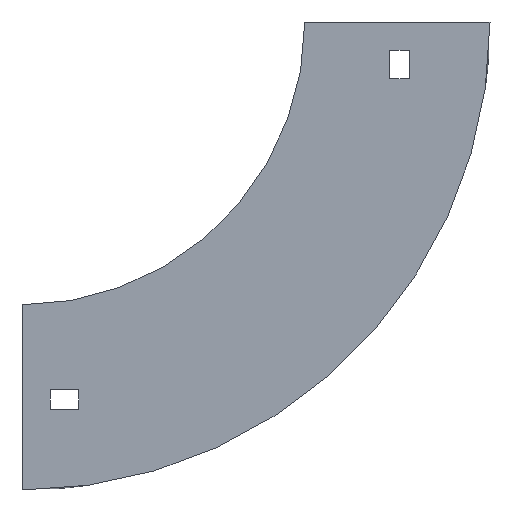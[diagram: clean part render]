
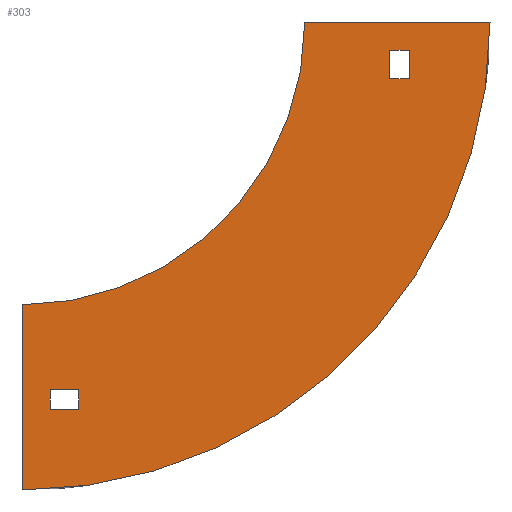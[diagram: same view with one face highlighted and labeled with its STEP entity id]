
A CAD part, left-side view. The second image highlights one B-rep face of the part: STEP entity #303.
In plain terms, the highlighted planar face has unit normal (-1, 0, 0).
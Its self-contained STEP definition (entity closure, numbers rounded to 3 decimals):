
#11 = ORIENTED_EDGE ( 'NONE', *, *, #822, .T. ) ;
#19 = EDGE_CURVE ( 'NONE', #940, #1120, #291, .T. ) ;
#23 = CARTESIAN_POINT ( 'NONE',  ( -32.75, 0., 0. ) ) ;
#34 = EDGE_CURVE ( 'NONE', #1111, #415, #609, .T. ) ;
#59 = DIRECTION ( 'NONE',  ( 0., 0., 1. ) ) ;
#67 = ORIENTED_EDGE ( 'NONE', *, *, #447, .T. ) ;
#77 = VECTOR ( 'NONE', #795, 1000. ) ;
#78 = CARTESIAN_POINT ( 'NONE',  ( -32.75, 80., -137. ) ) ;
#83 = LINE ( 'NONE', #782, #897 ) ;
#84 = CARTESIAN_POINT ( 'NONE',  ( -32.75, 100., 0. ) ) ;
#120 = ORIENTED_EDGE ( 'NONE', *, *, #238, .F. ) ;
#124 = LINE ( 'NONE', #202, #491 ) ;
#133 = CARTESIAN_POINT ( 'NONE',  ( -32.75, 100., -165.5 ) ) ;
#134 = CARTESIAN_POINT ( 'NONE',  ( -32.75, 100., 0. ) ) ;
#152 = CARTESIAN_POINT ( 'NONE',  ( -32.75, -30., -20. ) ) ;
#164 = VERTEX_POINT ( 'NONE', #1003 ) ;
#165 = ORIENTED_EDGE ( 'NONE', *, *, #19, .F. ) ;
#183 = FACE_BOUND ( 'NONE', #619, .T. ) ;
#188 = DIRECTION ( 'NONE',  ( 0., -1., 0. ) ) ;
#190 = DIRECTION ( 'NONE',  ( 0., 0., 1. ) ) ;
#202 = CARTESIAN_POINT ( 'NONE',  ( -32.75, -30., -10. ) ) ;
#217 = CARTESIAN_POINT ( 'NONE',  ( -32.75, 90., -137. ) ) ;
#225 = ORIENTED_EDGE ( 'NONE', *, *, #34, .F. ) ;
#238 = EDGE_CURVE ( 'NONE', #164, #889, #710, .T. ) ;
#248 = CARTESIAN_POINT ( 'NONE',  ( -32.75, 100., -100. ) ) ;
#272 = VECTOR ( 'NONE', #1023, 1000. ) ;
#275 = CARTESIAN_POINT ( 'NONE',  ( -32.75, -37., -20. ) ) ;
#282 = DIRECTION ( 'NONE',  ( 0., 0., -1. ) ) ;
#284 = CARTESIAN_POINT ( 'NONE',  ( -32.75, 90., -130. ) ) ;
#291 = CIRCLE ( 'NONE', #930, 100. ) ;
#303 = ADVANCED_FACE ( 'NONE', ( #796, #534, #183 ), #1079, .F. ) ;
#311 = VECTOR ( 'NONE', #188, 1000. ) ;
#323 = EDGE_CURVE ( 'NONE', #1000, #428, #354, .T. ) ;
#340 = EDGE_LOOP ( 'NONE', ( #165, #792, #120, #773 ) ) ;
#354 = LINE ( 'NONE', #625, #397 ) ;
#355 = ORIENTED_EDGE ( 'NONE', *, *, #909, .F. ) ;
#366 = VECTOR ( 'NONE', #504, 1000. ) ;
#376 = VERTEX_POINT ( 'NONE', #275 ) ;
#380 = VERTEX_POINT ( 'NONE', #610 ) ;
#397 = VECTOR ( 'NONE', #190, 1000. ) ;
#402 = ORIENTED_EDGE ( 'NONE', *, *, #323, .F. ) ;
#415 = VERTEX_POINT ( 'NONE', #217 ) ;
#424 = DIRECTION ( 'NONE',  ( 0., -1., 0. ) ) ;
#428 = VERTEX_POINT ( 'NONE', #750 ) ;
#447 = EDGE_CURVE ( 'NONE', #380, #984, #124, .T. ) ;
#459 = CARTESIAN_POINT ( 'NONE',  ( -32.75, 90., -130. ) ) ;
#471 = AXIS2_PLACEMENT_3D ( 'NONE', #786, #791, #282 ) ;
#491 = VECTOR ( 'NONE', #568, 1000. ) ;
#492 = DIRECTION ( 'NONE',  ( 0., 0., -1. ) ) ;
#497 = LINE ( 'NONE', #585, #1029 ) ;
#498 = ORIENTED_EDGE ( 'NONE', *, *, #606, .F. ) ;
#504 = DIRECTION ( 'NONE',  ( 0., 1., 0. ) ) ;
#534 = FACE_BOUND ( 'NONE', #668, .T. ) ;
#538 = EDGE_CURVE ( 'NONE', #889, #940, #670, .T. ) ;
#554 = DIRECTION ( 'NONE',  ( 1., 0., 0. ) ) ;
#564 = VECTOR ( 'NONE', #59, 1000. ) ;
#568 = DIRECTION ( 'NONE',  ( 0., 0., 1. ) ) ;
#582 = LINE ( 'NONE', #758, #861 ) ;
#585 = CARTESIAN_POINT ( 'NONE',  ( -32.75, 90., -137. ) ) ;
#606 = EDGE_CURVE ( 'NONE', #415, #1000, #497, .T. ) ;
#609 = LINE ( 'NONE', #459, #77 ) ;
#610 = CARTESIAN_POINT ( 'NONE',  ( -32.75, -30., -20. ) ) ;
#619 = EDGE_LOOP ( 'NONE', ( #225, #355, #402, #498 ) ) ;
#625 = CARTESIAN_POINT ( 'NONE',  ( -32.75, 80., -130. ) ) ;
#629 = DIRECTION ( 'NONE',  ( -1., 0., 0. ) ) ;
#668 = EDGE_LOOP ( 'NONE', ( #67, #840, #11, #871 ) ) ;
#670 = LINE ( 'NONE', #856, #564 ) ;
#684 = EDGE_CURVE ( 'NONE', #1120, #164, #83, .T. ) ;
#709 = DIRECTION ( 'NONE',  ( 0., 0., -1. ) ) ;
#710 = CIRCLE ( 'NONE', #952, 165.5 ) ;
#740 = EDGE_CURVE ( 'NONE', #984, #829, #794, .T. ) ;
#750 = CARTESIAN_POINT ( 'NONE',  ( -32.75, 80., -130. ) ) ;
#758 = CARTESIAN_POINT ( 'NONE',  ( -32.75, 90., -130. ) ) ;
#773 = ORIENTED_EDGE ( 'NONE', *, *, #684, .F. ) ;
#779 = CARTESIAN_POINT ( 'NONE',  ( -32.75, -30., -10. ) ) ;
#782 = CARTESIAN_POINT ( 'NONE',  ( -32.75, -65.5, 0. ) ) ;
#786 = CARTESIAN_POINT ( 'NONE',  ( -32.75, 100., 0. ) ) ;
#791 = DIRECTION ( 'NONE',  ( 1., 0., 0. ) ) ;
#792 = ORIENTED_EDGE ( 'NONE', *, *, #538, .F. ) ;
#794 = LINE ( 'NONE', #892, #311 ) ;
#795 = DIRECTION ( 'NONE',  ( 0., 0., -1. ) ) ;
#796 = FACE_OUTER_BOUND ( 'NONE', #340, .T. ) ;
#822 = EDGE_CURVE ( 'NONE', #829, #376, #1106, .T. ) ;
#829 = VERTEX_POINT ( 'NONE', #849 ) ;
#840 = ORIENTED_EDGE ( 'NONE', *, *, #740, .T. ) ;
#849 = CARTESIAN_POINT ( 'NONE',  ( -32.75, -37., -10. ) ) ;
#856 = CARTESIAN_POINT ( 'NONE',  ( -32.75, 100., -100. ) ) ;
#861 = VECTOR ( 'NONE', #1030, 1000. ) ;
#871 = ORIENTED_EDGE ( 'NONE', *, *, #1020, .T. ) ;
#889 = VERTEX_POINT ( 'NONE', #133 ) ;
#892 = CARTESIAN_POINT ( 'NONE',  ( -32.75, -30., -10. ) ) ;
#897 = VECTOR ( 'NONE', #1142, 1000. ) ;
#909 = EDGE_CURVE ( 'NONE', #428, #1111, #582, .T. ) ;
#920 = CARTESIAN_POINT ( 'NONE',  ( -32.75, -37., -10. ) ) ;
#930 = AXIS2_PLACEMENT_3D ( 'NONE', #84, #629, #709 ) ;
#940 = VERTEX_POINT ( 'NONE', #248 ) ;
#946 = LINE ( 'NONE', #152, #366 ) ;
#952 = AXIS2_PLACEMENT_3D ( 'NONE', #134, #554, #492 ) ;
#984 = VERTEX_POINT ( 'NONE', #779 ) ;
#1000 = VERTEX_POINT ( 'NONE', #78 ) ;
#1003 = CARTESIAN_POINT ( 'NONE',  ( -32.75, -65.5, 0. ) ) ;
#1020 = EDGE_CURVE ( 'NONE', #376, #380, #946, .T. ) ;
#1023 = DIRECTION ( 'NONE',  ( 0., 0., -1. ) ) ;
#1029 = VECTOR ( 'NONE', #424, 1000. ) ;
#1030 = DIRECTION ( 'NONE',  ( 0., 1., 0. ) ) ;
#1079 = PLANE ( 'NONE',  #471 ) ;
#1106 = LINE ( 'NONE', #920, #272 ) ;
#1111 = VERTEX_POINT ( 'NONE', #284 ) ;
#1120 = VERTEX_POINT ( 'NONE', #23 ) ;
#1142 = DIRECTION ( 'NONE',  ( 0., -1., 0. ) ) ;
